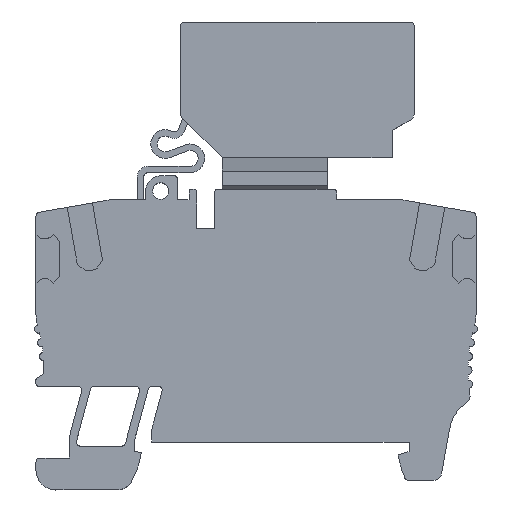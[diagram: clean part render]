
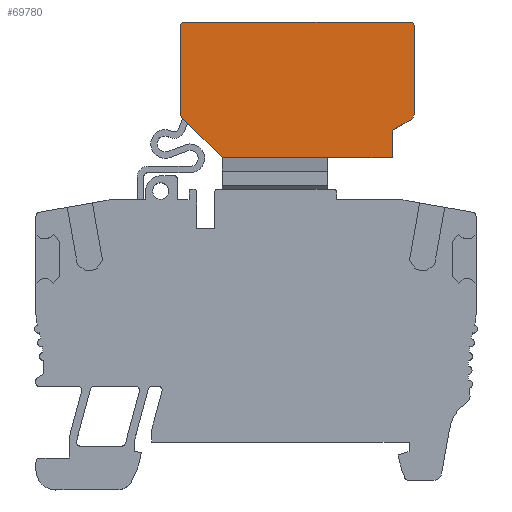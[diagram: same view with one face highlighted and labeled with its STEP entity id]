
A CAD part, top view. The second image highlights one B-rep face of the part: STEP entity #69780.
In plain terms, the highlighted planar face has unit normal (0, 0, 1).
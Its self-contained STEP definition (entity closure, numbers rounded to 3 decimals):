
#65740=CARTESIAN_POINT('',(17.65,52.7,
0.7));
#65750=VERTEX_POINT('',#65740);
#65910=CARTESIAN_POINT('',(18.15,52.2,
0.7));
#65920=VERTEX_POINT('',#65910);
#65950=CARTESIAN_POINT('',(17.65,52.2,
0.7));
#65960=DIRECTION('',(0.,0.,1.));
#65970=DIRECTION('',(1.,0.,0.));
#65980=AXIS2_PLACEMENT_3D('',#65950,#65960,#65970);
#65990=CIRCLE('',#65980,0.5);
#66000=EDGE_CURVE('',#65920,#65750,#65990,.T.);
#67260=CARTESIAN_POINT('',(-11.15,41.107,0.7));
#67270=VERTEX_POINT('',#67260);
#67300=CARTESIAN_POINT('',(-10.65,41.107,0.7));
#67310=DIRECTION('',(0.,0.,1.));
#67320=DIRECTION('',(1.,0.,0.));
#67330=AXIS2_PLACEMENT_3D('',#67300,#67310,#67320);
#67340=CIRCLE('',#67330,0.5);
#67350=CARTESIAN_POINT('',(-11.004,40.754,
0.7));
#67360=VERTEX_POINT('',#67350);
#67370=EDGE_CURVE('',#67270,#67360,#67340,.T.);
#67620=CARTESIAN_POINT('',(4.,52.7,
0.7));
#67630=DIRECTION('',(1.,0.,0.));
#67640=VECTOR('',#67630,1.);
#67650=LINE('',#67620,#67640);
#67660=CARTESIAN_POINT('',(-10.65,52.7,0.7));
#67670=VERTEX_POINT('',#67660);
#67680=EDGE_CURVE('',#67670,#65750,#67650,.T.);
#68610=CARTESIAN_POINT('',(-10.65,52.2,0.7));
#68620=DIRECTION('',(0.,0.,-1.));
#68630=DIRECTION('',(-1.,0.,0.));
#68640=AXIS2_PLACEMENT_3D('',#68610,#68620,#68630);
#68650=CIRCLE('',#68640,0.5);
#68660=CARTESIAN_POINT('',(-11.15,52.2,0.7));
#68670=VERTEX_POINT('',#68660);
#68680=EDGE_CURVE('',#68670,#67670,#68650,.T.);
#68940=CARTESIAN_POINT('',(-11.15,6.,0.7));
#68950=DIRECTION('',(0.,1.,0.));
#68960=VECTOR('',#68950,1.);
#68970=LINE('',#68940,#68960);
#68980=EDGE_CURVE('',#67270,#68670,#68970,.T.);
#69110=CARTESIAN_POINT('',(-11.15,38.4,0.7));
#69120=DIRECTION('',(0.,0.,-1.));
#69130=DIRECTION('',(0.,1.,0.));
#69140=AXIS2_PLACEMENT_3D('',#69110,#69120,#69130);
#69150=PLANE('',#69140);
#69160=ORIENTED_EDGE('',*,*,#67370,.T.);
#69170=ORIENTED_EDGE('',*,*,#68980,.F.);
#69180=ORIENTED_EDGE('',*,*,#68680,.F.);
#69190=ORIENTED_EDGE('',*,*,#67680,.F.);
#69200=ORIENTED_EDGE('',*,*,#66000,.T.);
#69210=CARTESIAN_POINT('',(18.15,6.,
0.7));
#69220=DIRECTION('',(0.,-1.,0.));
#69230=VECTOR('',#69220,1.);
#69240=LINE('',#69210,#69230);
#69250=CARTESIAN_POINT('',(18.15,41.265,
0.7));
#69260=VERTEX_POINT('',#69250);
#69270=EDGE_CURVE('',#65920,#69260,#69240,.T.);
#69280=ORIENTED_EDGE('',*,*,#69270,.F.);
#69290=CARTESIAN_POINT('',(17.15,41.265,
0.7));
#69300=DIRECTION('',(0.,0.,-1.));
#69310=DIRECTION('',(-1.,0.,0.));
#69320=AXIS2_PLACEMENT_3D('',#69290,#69300,#69310);
#69330=CIRCLE('',#69320,1.);
#69340=CARTESIAN_POINT('',(17.65,40.399,
0.7));
#69350=VERTEX_POINT('',#69340);
#69360=EDGE_CURVE('',#69260,#69350,#69330,.T.);
#69370=ORIENTED_EDGE('',*,*,#69360,.F.);
#69380=CARTESIAN_POINT('',(-10.95,23.887,
0.7));
#69390=DIRECTION('',(-0.866,-0.5,0.));
#69400=VECTOR('',#69390,1.);
#69410=LINE('',#69380,#69400);
#69420=CARTESIAN_POINT('',(15.4,39.1,
0.7));
#69430=VERTEX_POINT('',#69420);
#69440=EDGE_CURVE('',#69350,#69430,#69410,.T.);
#69450=ORIENTED_EDGE('',*,*,#69440,.F.);
#69460=CARTESIAN_POINT('',(15.4,6.,
0.7));
#69470=DIRECTION('',(0.,-1.,0.));
#69480=VECTOR('',#69470,1.);
#69490=LINE('',#69460,#69480);
#69500=CARTESIAN_POINT('',(15.4,35.7,
0.7));
#69510=VERTEX_POINT('',#69500);
#69520=EDGE_CURVE('',#69430,#69510,#69490,.T.);
#69530=ORIENTED_EDGE('',*,*,#69520,.F.);
#69540=CARTESIAN_POINT('',(-10.95,35.7,
0.7));
#69550=DIRECTION('',(-1.,0.,0.));
#69560=VECTOR('',#69550,1.);
#69570=LINE('',#69540,#69560);
#69580=CARTESIAN_POINT('',(7.25,35.7,
0.7));
#69590=VERTEX_POINT('',#69580);
#69600=EDGE_CURVE('',#69510,#69590,#69570,.T.);
#69610=ORIENTED_EDGE('',*,*,#69600,.F.);
#69620=CARTESIAN_POINT('',(4.,35.7,
0.7));
#69630=DIRECTION('',(1.,0.,0.));
#69640=VECTOR('',#69630,1.);
#69650=LINE('',#69620,#69640);
#69660=CARTESIAN_POINT('',(-5.95,35.7,
0.7));
#69670=VERTEX_POINT('',#69660);
#69680=EDGE_CURVE('',#69670,#69590,#69650,.T.);
#69690=ORIENTED_EDGE('',*,*,#69680,.T.);
#69700=CARTESIAN_POINT('',(23.75,6.,
0.7));
#69710=DIRECTION('',(-0.707,0.707,
0.));
#69720=VECTOR('',#69710,1.);
#69730=LINE('',#69700,#69720);
#69740=EDGE_CURVE('',#69670,#67360,#69730,.T.);
#69750=ORIENTED_EDGE('',*,*,#69740,.F.);
#69760=EDGE_LOOP('',(#69750,#69690,#69610,#69530,#69450,#69370,#69280,
#69200,#69190,#69180,#69170,#69160));
#69770=FACE_OUTER_BOUND('',#69760,.T.);
#69780=ADVANCED_FACE('',(#69770),#69150,.F.);
